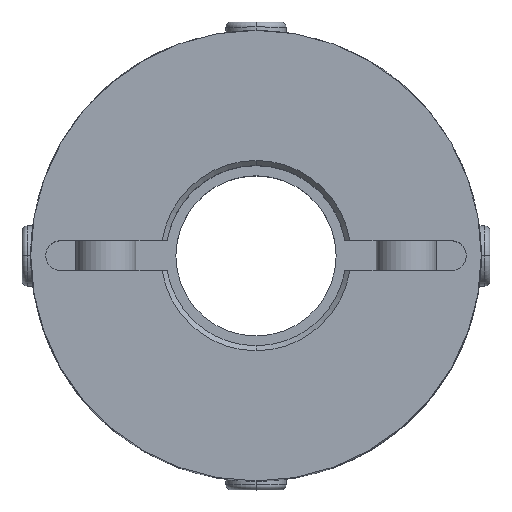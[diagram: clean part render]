
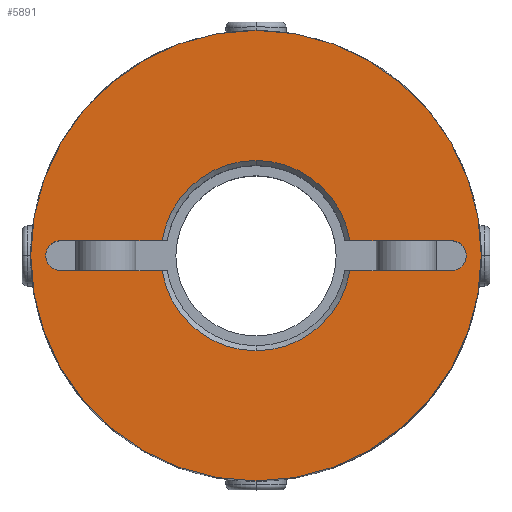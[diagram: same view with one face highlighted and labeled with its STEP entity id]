
A CAD part, top view. The second image highlights one B-rep face of the part: STEP entity #5891.
In plain terms, the highlighted planar face has unit normal (0, 0, 1).
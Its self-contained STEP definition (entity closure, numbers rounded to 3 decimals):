
#2768=CARTESIAN_POINT('',(0.,22.5,22.5));
#2769=VERTEX_POINT('',#2768);
#2776=CARTESIAN_POINT('',(0.,-22.5,22.5));
#2777=VERTEX_POINT('',#2776);
#2778=CARTESIAN_POINT('',(0.0,0.0,22.5));
#2779=DIRECTION('',(0.0,0.0,-1.0));
#2780=DIRECTION('',(0.0,-1.0,0.0));
#2781=AXIS2_PLACEMENT_3D('',#2778,#2779,#2780);
#2782=CIRCLE('',#2781,22.5);
#2783=EDGE_CURVE('',#2769,#2777,#2782,.T.);
#3094=CARTESIAN_POINT('',(20.561,1.061,22.5));
#3095=VERTEX_POINT('',#3094);
#3111=CARTESIAN_POINT('',(19.5,-1.5,22.5));
#3112=VERTEX_POINT('',#3111);
#3119=CARTESIAN_POINT('',(19.5,0.,22.5));
#3120=DIRECTION('',(0.0,0.0,1.0));
#3121=DIRECTION('',(0.707,-0.707,0.0));
#3122=AXIS2_PLACEMENT_3D('',#3119,#3120,#3121);
#3123=CIRCLE('',#3122,1.5);
#3124=EDGE_CURVE('',#3112,#3095,#3123,.T.);
#3136=CARTESIAN_POINT('',(-20.561,-1.061,22.5));
#3137=VERTEX_POINT('',#3136);
#3153=CARTESIAN_POINT('',(-19.5,1.5,22.5));
#3154=VERTEX_POINT('',#3153);
#3161=CARTESIAN_POINT('',(-19.5,0.,22.5));
#3162=DIRECTION('',(0.0,0.0,1.0));
#3163=DIRECTION('',(-0.707,0.707,0.0));
#3164=AXIS2_PLACEMENT_3D('',#3161,#3162,#3163);
#3165=CIRCLE('',#3164,1.5);
#3166=EDGE_CURVE('',#3154,#3137,#3165,.T.);
#3886=CARTESIAN_POINT('',(0.,9.5,22.5));
#3887=VERTEX_POINT('',#3886);
#3895=CARTESIAN_POINT('',(9.381,1.5,22.5));
#3896=VERTEX_POINT('',#3895);
#3910=CARTESIAN_POINT('',(0.0,0.0,22.5));
#3911=DIRECTION('',(0.0,0.0,1.0));
#3912=DIRECTION('',(0.0,1.0,0.0));
#3913=AXIS2_PLACEMENT_3D('',#3910,#3911,#3912);
#3914=CIRCLE('',#3913,9.5);
#3915=EDGE_CURVE('',#3896,#3887,#3914,.T.);
#3925=CARTESIAN_POINT('',(0.,-9.5,22.5));
#3926=VERTEX_POINT('',#3925);
#3942=CARTESIAN_POINT('',(-9.381,-1.5,22.5));
#3943=VERTEX_POINT('',#3942);
#3957=CARTESIAN_POINT('',(0.0,0.0,22.5));
#3958=DIRECTION('',(0.0,0.0,1.0));
#3959=DIRECTION('',(0.0,-1.0,0.0));
#3960=AXIS2_PLACEMENT_3D('',#3957,#3958,#3959);
#3961=CIRCLE('',#3960,9.5);
#3962=EDGE_CURVE('',#3943,#3926,#3961,.T.);
#5629=CARTESIAN_POINT('',(19.5,1.5,22.5));
#5630=VERTEX_POINT('',#5629);
#5637=CARTESIAN_POINT('',(9.381,1.5,22.5));
#5638=DIRECTION('',(1.0,0.0,0.0));
#5639=VECTOR('',#5638,10.119);
#5640=LINE('',#5637,#5639);
#5641=EDGE_CURVE('',#3896,#5630,#5640,.T.);
#5776=CARTESIAN_POINT('',(9.381,-1.5,22.5));
#5777=VERTEX_POINT('',#5776);
#5791=CARTESIAN_POINT('',(19.5,-1.5,22.5));
#5792=DIRECTION('',(-1.0,0.0,0.0));
#5793=VECTOR('',#5792,10.119);
#5794=LINE('',#5791,#5793);
#5795=EDGE_CURVE('',#3112,#5777,#5794,.T.);
#5818=CARTESIAN_POINT('',(0.0,0.0,22.5));
#5819=DIRECTION('',(0.0,0.0,1.0));
#5820=DIRECTION('',(0.0,-1.0,0.0));
#5821=AXIS2_PLACEMENT_3D('',#5818,#5819,#5820);
#5822=CIRCLE('',#5821,9.5);
#5823=EDGE_CURVE('',#3926,#5777,#5822,.T.);
#5830=CARTESIAN_POINT('',(0.,-2.045,22.5));
#5831=DIRECTION('',(0.0,0.0,1.0));
#5832=DIRECTION('',(0.0,-1.0,0.0));
#5833=AXIS2_PLACEMENT_3D('',#5830,#5831,#5832);
#5834=PLANE('',#5833);
#5835=CARTESIAN_POINT('',(0.0,0.0,22.5));
#5836=DIRECTION('',(0.0,0.0,-1.0));
#5837=DIRECTION('',(0.0,-1.0,0.0));
#5838=AXIS2_PLACEMENT_3D('',#5835,#5836,#5837);
#5839=CIRCLE('',#5838,22.5);
#5840=EDGE_CURVE('',#2777,#2769,#5839,.T.);
#5841=ORIENTED_EDGE('',*,*,#5840,.F.);
#5842=ORIENTED_EDGE('',*,*,#2783,.F.);
#5843=EDGE_LOOP('',(#5841,#5842));
#5844=FACE_OUTER_BOUND('',#5843,.T.);
#5845=ORIENTED_EDGE('',*,*,#3962,.F.);
#5846=CARTESIAN_POINT('',(-19.5,-1.5,22.5));
#5847=VERTEX_POINT('',#5846);
#5848=CARTESIAN_POINT('',(-9.381,-1.5,22.5));
#5849=DIRECTION('',(-1.0,0.0,0.0));
#5850=VECTOR('',#5849,10.119);
#5851=LINE('',#5848,#5850);
#5852=EDGE_CURVE('',#3943,#5847,#5851,.T.);
#5853=ORIENTED_EDGE('',*,*,#5852,.T.);
#5854=CARTESIAN_POINT('',(-19.5,0.,22.5));
#5855=DIRECTION('',(0.0,0.0,1.0));
#5856=DIRECTION('',(-0.707,0.707,0.0));
#5857=AXIS2_PLACEMENT_3D('',#5854,#5855,#5856);
#5858=CIRCLE('',#5857,1.5);
#5859=EDGE_CURVE('',#3137,#5847,#5858,.T.);
#5860=ORIENTED_EDGE('',*,*,#5859,.F.);
#5861=ORIENTED_EDGE('',*,*,#3166,.F.);
#5862=CARTESIAN_POINT('',(-9.381,1.5,22.5));
#5863=VERTEX_POINT('',#5862);
#5864=CARTESIAN_POINT('',(-19.5,1.5,22.5));
#5865=DIRECTION('',(1.0,0.0,0.0));
#5866=VECTOR('',#5865,10.119);
#5867=LINE('',#5864,#5866);
#5868=EDGE_CURVE('',#3154,#5863,#5867,.T.);
#5869=ORIENTED_EDGE('',*,*,#5868,.T.);
#5870=CARTESIAN_POINT('',(0.0,0.0,22.5));
#5871=DIRECTION('',(0.0,0.0,1.0));
#5872=DIRECTION('',(0.0,1.0,0.0));
#5873=AXIS2_PLACEMENT_3D('',#5870,#5871,#5872);
#5874=CIRCLE('',#5873,9.5);
#5875=EDGE_CURVE('',#3887,#5863,#5874,.T.);
#5876=ORIENTED_EDGE('',*,*,#5875,.F.);
#5877=ORIENTED_EDGE('',*,*,#3915,.F.);
#5878=ORIENTED_EDGE('',*,*,#5641,.T.);
#5879=CARTESIAN_POINT('',(19.5,0.,22.5));
#5880=DIRECTION('',(0.0,0.0,1.0));
#5881=DIRECTION('',(0.707,-0.707,0.0));
#5882=AXIS2_PLACEMENT_3D('',#5879,#5880,#5881);
#5883=CIRCLE('',#5882,1.5);
#5884=EDGE_CURVE('',#3095,#5630,#5883,.T.);
#5885=ORIENTED_EDGE('',*,*,#5884,.F.);
#5886=ORIENTED_EDGE('',*,*,#3124,.F.);
#5887=ORIENTED_EDGE('',*,*,#5795,.T.);
#5888=ORIENTED_EDGE('',*,*,#5823,.F.);
#5889=EDGE_LOOP('',(#5845,#5853,#5860,#5861,#5869,#5876,#5877,#5878,#5885,#5886,#5887,#5888));
#5890=FACE_BOUND('',#5889,.T.);
#5891=ADVANCED_FACE('',(#5844,#5890),#5834,.T.);
